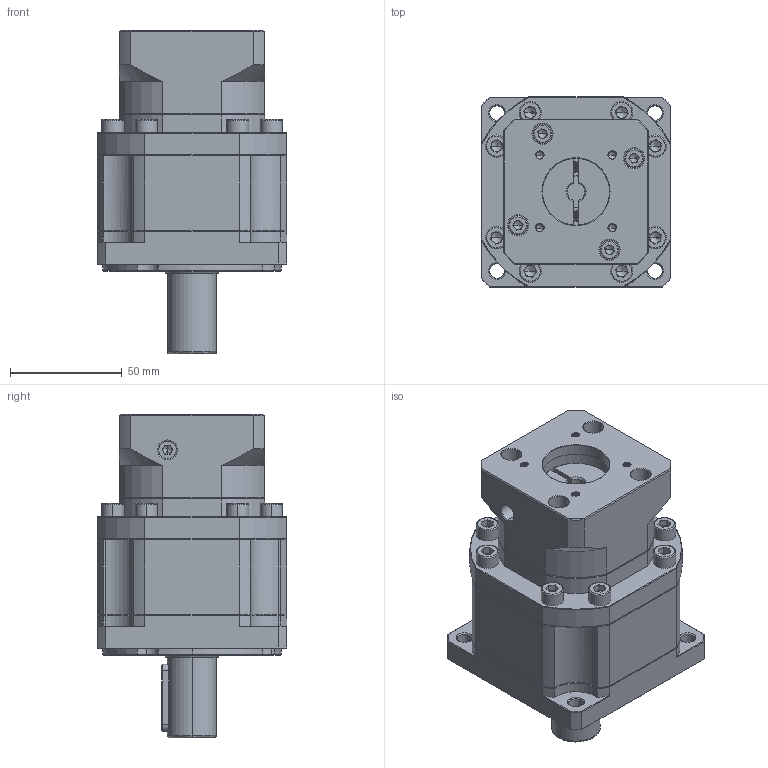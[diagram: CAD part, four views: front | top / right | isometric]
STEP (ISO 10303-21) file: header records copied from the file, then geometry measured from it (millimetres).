
FILE_DESCRIPTION (( 'STEP AP214' ), '1' );
FILE_NAME ('ZB090-D22-L2-P2-8-30-46-M4.step', '2023-08-18T13:37:17', ( '' ), ( '' ), 'SwSTEP 2.0', 'SolidWorks 2016', '' );
FILE_SCHEMA (( 'AUTOMOTIVE_DESIGN' ));
Length unit declared in the file: millimetre
Products named in the file (1): ZB090-D22-L2-P2-8-30-46-M4
Bounding box: 85 x 85 x 145 mm (x, y, z)
Volume: 552473.3 mm3; surface area: 77153.6 mm2
Topology: 6 solids, 6 shells, 2350 faces, 6249 edges, 3995 vertices
Faces by surface type: plane 1185, bspline 426, cylinder 394, cone 323, torus 22
Entity records: 123182 total; most frequent: CARTESIAN_POINT 42238, ORIENTED_EDGE 12406, DIRECTION 9894, EDGE_CURVE 6203, VERTEX_POINT 3995, LINE 3926, VECTOR 3926, AXIS2_PLACEMENT_3D 2984
